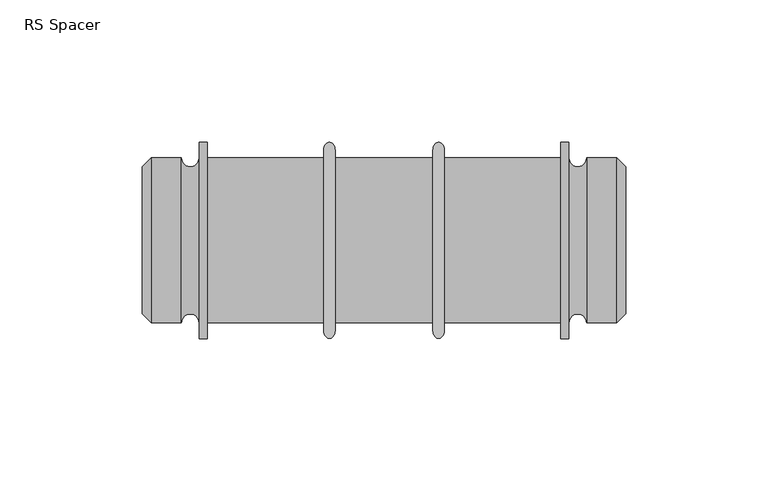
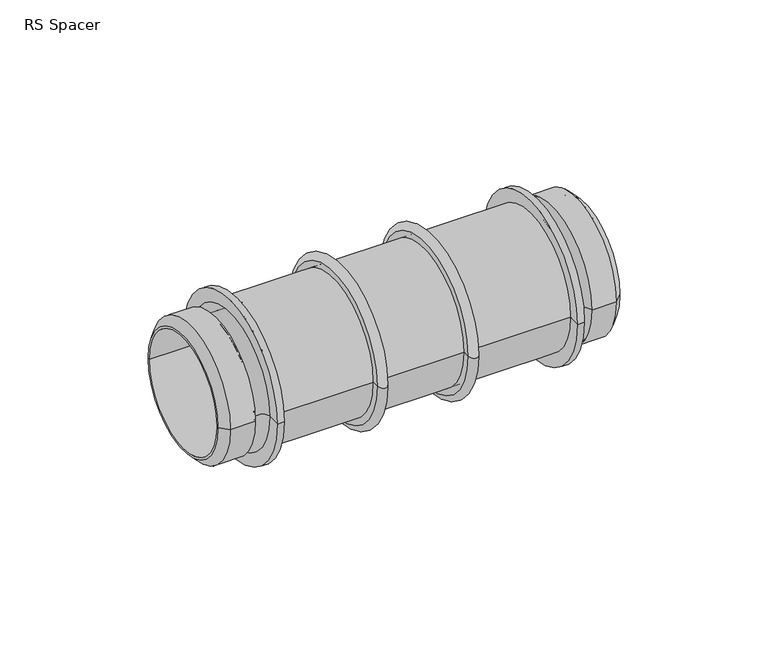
"""IFC4 building model written with IfcOpenShell, lengths in millimetres: pipe fitting geometry, RS Spacer : Superpipe RS Spacer - RS2 130mm."""

from ifc_helpers import new_model, si_unit, point, frame, origin, place, context, project, spatial, polyline, circle_curve, ellipse_curve, trimmed, source, transform, mapped, element, save
from ifc_brep_helpers import plane_surface, cylinder_surface, revolved_surface, advanced_brep


def rs_spacer_67fe0fff(model_context):
    return source(origin(), model_context, "Body", "AdvancedBrep", [
        advanced_brep(
        [(106.2, -29.0, 0.0), (106.2, 29.0, 0.0), (102.2, 29.0, 0.0), (102.2, -29.0, 0.0), (106.2, -31.75, 0.0), (106.2, 31.75, 0.0), (102.2, 31.75, 0.0), (102.2, -31.75, 0.0)],
        [
            (0, 1, circle_curve(frame((106.2, 0.0, 0.0), z_axis=(1.0, 0.0, 0.0), x_axis=(0.0, 1.0, 0.0)), 29.0)),
            (1, 2),
            (2, 3, circle_curve(frame((102.2, 0.0, 0.0), z_axis=(-1.0, 0.0, 0.0), x_axis=(0.0, 1.0, 0.0)), 29.0)),
            (3, 0),
            (1, 0, circle_curve(frame((106.2, 0.0, 0.0), z_axis=(1.0, 0.0, 0.0), x_axis=(0.0, 1.0, 0.0)), 29.0)),
            (3, 2, circle_curve(frame((102.2, 0.0, 0.0), z_axis=(-1.0, 0.0, 0.0), x_axis=(0.0, 1.0, 0.0)), 29.0)),
            (4, 5, circle_curve(frame((106.2, 0.0, 0.0), z_axis=(1.0, 0.0, 0.0), x_axis=(0.0, 1.0, 0.0)), 31.75)),
            (5, 1),
            (0, 4),
            (5, 4, circle_curve(frame((106.2, 0.0, 0.0), z_axis=(1.0, 0.0, 0.0), x_axis=(0.0, 1.0, 0.0)), 31.75)),
            (2, 6),
            (6, 7, circle_curve(frame((102.2, 0.0, 0.0), z_axis=(-1.0, 0.0, 0.0), x_axis=(0.0, 1.0, 0.0)), 31.75)),
            (7, 3),
            (7, 6, circle_curve(frame((102.2, 0.0, 0.0), z_axis=(-1.0, 0.0, 0.0), x_axis=(0.0, 1.0, 0.0)), 31.75)),
            (6, 5, ellipse_curve(frame((104.2, 31.75, 0.0), z_axis=(0.0, 0.0, -1.0), x_axis=(0.0, -1.0, 0.0)), 2.75, 2.0)),
            (4, 7, ellipse_curve(frame((104.2, -31.75, 0.0), z_axis=(0.0, 0.0, -1.0), x_axis=(0.0, 1.0, 0.0)), 2.75, 2.0)),
        ],
        [
            revolved_surface(polyline([(102.20000000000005, 29.0, 0.0), (106.20000000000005, 29.0, 0.0)]), (2000.0, 0.0, 0.0), (-1.0, 0.0, 0.0)),
            plane_surface(frame((106.2, 0.0, 0.0), z_axis=(1.0, 0.0, 0.0), x_axis=(0.0, 1.0, 0.0))),
            plane_surface(frame((102.2, 0.0, 0.0), z_axis=(-1.0, 0.0, 0.0), x_axis=(0.0, 1.0, 0.0))),
            revolved_surface(trimmed(ellipse_curve(frame((104.2, 31.75, 0.0), z_axis=(0.0, 0.0, 1.0), x_axis=(-1.0, 0.0, 0.0)), 2.0, 2.75), [point((106.2, 31.75, 0.0))], [point((102.2, 31.75, 0.0))], True, "CARTESIAN"), (2000.0, 0.0, 0.0), (-1.0, 0.0, 0.0)),
        ],
        [
            (0, [[1, 2, 3, 4]]),
            (0, [[5, -4, 6, -2]]),
            (1, [[7, 8, -1, 9]]),
            (1, [[10, -9, -5, -8]]),
            (2, [[-3, 11, 12, 13]]),
            (2, [[-6, -13, 14, -11]]),
            (3, [[-12, 15, -7, 16]]),
            (3, [[-14, -16, -10, -15]]),
        ],
    ),
        advanced_brep(
        [(67.8, -29.0, 0.0), (67.8, 29.0, 0.0), (63.8, 29.0, 0.0), (63.8, -29.0, 0.0), (67.8, -31.75, 0.0), (67.8, 31.75, 0.0), (63.8, 31.75, 0.0), (63.8, -31.75, 0.0)],
        [
            (0, 1, circle_curve(frame((67.8, 0.0, 0.0), z_axis=(1.0, 0.0, 0.0), x_axis=(0.0, 1.0, 0.0)), 29.0)),
            (1, 2),
            (2, 3, circle_curve(frame((63.8, 0.0, 0.0), z_axis=(-1.0, 0.0, 0.0), x_axis=(0.0, 1.0, 0.0)), 29.0)),
            (3, 0),
            (1, 0, circle_curve(frame((67.8, 0.0, 0.0), z_axis=(1.0, 0.0, 0.0), x_axis=(0.0, 1.0, 0.0)), 29.0)),
            (3, 2, circle_curve(frame((63.8, 0.0, 0.0), z_axis=(-1.0, 0.0, 0.0), x_axis=(0.0, 1.0, 0.0)), 29.0)),
            (4, 5, circle_curve(frame((67.8, 0.0, 0.0), z_axis=(1.0, 0.0, 0.0), x_axis=(0.0, 1.0, 0.0)), 31.75)),
            (5, 1),
            (0, 4),
            (5, 4, circle_curve(frame((67.8, 0.0, 0.0), z_axis=(1.0, 0.0, 0.0), x_axis=(0.0, 1.0, 0.0)), 31.75)),
            (2, 6),
            (6, 7, circle_curve(frame((63.8, 0.0, 0.0), z_axis=(-1.0, 0.0, 0.0), x_axis=(0.0, 1.0, 0.0)), 31.75)),
            (7, 3),
            (7, 6, circle_curve(frame((63.8, 0.0, 0.0), z_axis=(-1.0, 0.0, 0.0), x_axis=(0.0, 1.0, 0.0)), 31.75)),
            (6, 5, ellipse_curve(frame((65.8, 31.75, 0.0), z_axis=(0.0, 0.0, -1.0), x_axis=(0.0, -1.0, 0.0)), 2.75, 2.0)),
            (4, 7, ellipse_curve(frame((65.8, -31.75, 0.0), z_axis=(0.0, 0.0, -1.0), x_axis=(0.0, 1.0, 0.0)), 2.75, 2.0)),
        ],
        [
            revolved_surface(polyline([(63.799999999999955, 29.0, 0.0), (67.79999999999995, 29.0, 0.0)]), (2000.0, 0.0, 0.0), (-1.0, 0.0, 0.0)),
            plane_surface(frame((67.8, 0.0, 0.0), z_axis=(1.0, 0.0, 0.0), x_axis=(0.0, 1.0, 0.0))),
            plane_surface(frame((63.8, 0.0, 0.0), z_axis=(-1.0, 0.0, 0.0), x_axis=(0.0, 1.0, 0.0))),
            revolved_surface(trimmed(ellipse_curve(frame((65.8, 31.75, 0.0), z_axis=(0.0, 0.0, 1.0), x_axis=(-1.0, 0.0, 0.0)), 2.0, 2.75), [point((67.8, 31.75, 0.0))], [point((63.8, 31.75, 0.0))], True, "CARTESIAN"), (2000.0, 0.0, 0.0), (-1.0, 0.0, 0.0)),
        ],
        [
            (0, [[1, 2, 3, 4]]),
            (0, [[5, -4, 6, -2]]),
            (1, [[7, 8, -1, 9]]),
            (1, [[10, -9, -5, -8]]),
            (2, [[-3, 11, 12, 13]]),
            (2, [[-6, -13, 14, -11]]),
            (3, [[-12, 15, -7, 16]]),
            (3, [[-14, -16, -10, -15]]),
        ],
    ),
        advanced_brep(
        [(147.2, -29.0, 0.0), (147.2, 29.0, 0.0), (147.2, 24.8, 0.0), (147.2, -24.8, 0.0), (22.8, 24.8, 0.0), (22.8, -24.8, 0.0), (22.8, 29.0, 0.0), (22.8, -29.0, 0.0)],
        [
            (0, 1, circle_curve(frame((147.2, 0.0, 0.0), z_axis=(1.0, 0.0, 0.0), x_axis=(0.0, 1.0, 0.0)), 29.0)),
            (1, 2),
            (2, 3, circle_curve(frame((147.2, 0.0, 0.0), z_axis=(-1.0, 0.0, 0.0), x_axis=(0.0, 1.0, 0.0)), 24.8)),
            (3, 0),
            (2, 4),
            (4, 5, circle_curve(frame((22.8, 0.0, 0.0), z_axis=(-1.0, 0.0, 0.0), x_axis=(0.0, 1.0, 0.0)), 24.8)),
            (5, 3),
            (4, 6),
            (6, 7, circle_curve(frame((22.8, 0.0, 0.0), z_axis=(-1.0, 0.0, 0.0), x_axis=(0.0, 1.0, 0.0)), 29.0)),
            (7, 5),
            (6, 1),
            (0, 7),
            (6, 7, circle_curve(frame((22.8, 0.0, 0.0), z_axis=(1.0, 0.0, 0.0), x_axis=(0.0, 1.0, 0.0)), 29.0)),
            (0, 1, circle_curve(frame((147.2, 0.0, 0.0), z_axis=(-1.0, 0.0, 0.0), x_axis=(0.0, 1.0, 0.0)), 29.0)),
            (4, 5, circle_curve(frame((22.8, 0.0, 0.0), z_axis=(1.0, 0.0, 0.0), x_axis=(0.0, 1.0, 0.0)), 24.8)),
            (2, 3, circle_curve(frame((147.2, 0.0, 0.0), z_axis=(1.0, 0.0, 0.0), x_axis=(0.0, 1.0, 0.0)), 24.8)),
        ],
        [
            plane_surface(frame((147.2, 0.0, 0.0), z_axis=(1.0, 0.0, 0.0), x_axis=(0.0, 1.0, 0.0))),
            revolved_surface(polyline([(22.799999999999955, 24.8, 0.0), (147.20000000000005, 24.8, 0.0)]), (2000.0, 0.0, 0.0), (-1.0, 0.0, 0.0)),
            plane_surface(frame((22.8, 0.0, 0.0), z_axis=(-1.0, 0.0, 0.0), x_axis=(0.0, 1.0, 0.0))),
            cylinder_surface(frame((2000.0, 0.0, 0.0), z_axis=(-1.0, 0.0, 0.0), x_axis=(0.0, 1.0, 0.0)), 29.0),
        ],
        [
            (0, [[1, 2, 3, 4]]),
            (1, [[-3, 5, 6, 7]]),
            (2, [[-6, 8, 9, 10]]),
            (3, [[-9, 11, -1, 12]]),
            (3, [[13, -12, 14, -11]]),
            (2, [[15, -10, -13, -8]]),
            (1, [[16, -7, -15, -5]]),
            (0, [[-14, -4, -16, -2]]),
        ],
    ),
        advanced_brep(
        [(147.2, -34.5, 0.0), (147.2, 34.5, 0.0), (150.0, 34.5, 0.0), (150.0, -34.5, 0.0), (150.0, 29.0, 0.0), (150.0, -29.0, 0.0), (170.0, -24.8, 0.0), (170.0, 24.8, 0.0), (147.2, 24.8, 0.0), (147.2, -24.8, 0.0), (166.8, -29.0, 0.0), (166.8, 29.0, 0.0), (170.0, 25.8, 0.0), (170.0, -25.8, 0.0), (156.2, 29.0, 0.0), (156.2, -29.0, 0.0)],
        [
            (0, 1, circle_curve(frame((147.2, 0.0, 0.0), z_axis=(1.0, 0.0, 0.0), x_axis=(0.0, 1.0, 0.0)), 34.5)),
            (1, 2),
            (2, 3, circle_curve(frame((150.0, 0.0, 0.0), z_axis=(-1.0, 0.0, 0.0), x_axis=(0.0, 1.0, 0.0)), 34.5)),
            (3, 0),
            (1, 0, circle_curve(frame((147.2, 0.0, 0.0), z_axis=(1.0, 0.0, 0.0), x_axis=(0.0, 1.0, 0.0)), 34.5)),
            (3, 2, circle_curve(frame((150.0, 0.0, 0.0), z_axis=(-1.0, 0.0, 0.0), x_axis=(0.0, 1.0, 0.0)), 34.5)),
            (2, 4),
            (4, 5, circle_curve(frame((150.0, 0.0, 0.0), z_axis=(-1.0, 0.0, 0.0), x_axis=(0.0, 1.0, 0.0)), 29.0)),
            (5, 3),
            (5, 4, circle_curve(frame((150.0, 0.0, 0.0), z_axis=(-1.0, 0.0, 0.0), x_axis=(0.0, 1.0, 0.0)), 29.0)),
            (6, 7, circle_curve(frame((170.0, 0.0, 0.0), z_axis=(1.0, 0.0, 0.0), x_axis=(0.0, 1.0, 0.0)), 24.8)),
            (7, 8),
            (8, 9, circle_curve(frame((147.2, 0.0, 0.0), z_axis=(-1.0, 0.0, 0.0), x_axis=(0.0, 1.0, 0.0)), 24.8)),
            (9, 6),
            (7, 6, circle_curve(frame((170.0, 0.0, 0.0), z_axis=(1.0, 0.0, 0.0), x_axis=(0.0, 1.0, 0.0)), 24.8)),
            (9, 8, circle_curve(frame((147.2, 0.0, 0.0), z_axis=(-1.0, 0.0, 0.0), x_axis=(0.0, 1.0, 0.0)), 24.8)),
            (8, 1),
            (0, 9),
            (10, 11, circle_curve(frame((166.8, 0.0, 0.0), z_axis=(1.0, 0.0, 0.0), x_axis=(0.0, 1.0, 0.0)), 29.0)),
            (11, 12),
            (12, 13, circle_curve(frame((170.0, 0.0, 0.0), z_axis=(-1.0, 0.0, 0.0), x_axis=(0.0, 1.0, 0.0)), 25.8)),
            (13, 10),
            (11, 10, circle_curve(frame((166.8, 0.0, 0.0), z_axis=(1.0, 0.0, 0.0), x_axis=(0.0, 1.0, 0.0)), 29.0)),
            (13, 12, circle_curve(frame((170.0, 0.0, 0.0), z_axis=(-1.0, 0.0, 0.0), x_axis=(0.0, 1.0, 0.0)), 25.8)),
            (12, 7),
            (6, 13),
            (4, 14, circle_curve(frame((153.1, 29.0, 0.0), z_axis=(0.0, 0.0, 1.0), x_axis=(-1.0, 0.0, 0.0)), 3.1)),
            (14, 15, circle_curve(frame((156.2, 0.0, 0.0), z_axis=(-1.0, 0.0, 0.0), x_axis=(0.0, 1.0, 0.0)), 29.0)),
            (15, 5, circle_curve(frame((153.1, -29.0, 0.0), z_axis=(0.0, 0.0, 1.0), x_axis=(-1.0, 0.0, 0.0)), 3.1)),
            (15, 14, circle_curve(frame((156.2, 0.0, 0.0), z_axis=(-1.0, 0.0, 0.0), x_axis=(0.0, 1.0, 0.0)), 29.0)),
            (14, 11),
            (10, 15),
        ],
        [
            cylinder_surface(frame((-1994.4, 0.0, 0.0), z_axis=(-1.0, 0.0, 0.0), x_axis=(0.0, 1.0, 0.0)), 34.5),
            plane_surface(frame((150.0, 0.0, 0.0), z_axis=(1.0, 0.0, 0.0), x_axis=(0.0, 1.0, 0.0))),
            revolved_surface(polyline([(147.19999999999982, 24.8, 0.0), (170.0, 24.8, 0.0)]), (-1994.4, 0.0, 0.0), (-1.0, 0.0, 0.0)),
            plane_surface(frame((147.2, 0.0, 0.0), z_axis=(-1.0, 0.0, 0.0), x_axis=(0.0, 1.0, 0.0))),
            revolved_surface(polyline([(170.0, 25.8, 0.0), (166.8, 29.0, 0.0)]), (-1994.4, 0.0, 0.0), (-1.0, 0.0, 0.0)),
            plane_surface(frame((170.0, 0.0, 0.0), z_axis=(1.0, 0.0, 0.0), x_axis=(0.0, 1.0, 0.0))),
            revolved_surface(trimmed(ellipse_curve(frame((153.1, 29.0, 0.0), z_axis=(0.0, 0.0, -1.0), x_axis=(-1.0, 0.0, 0.0)), 3.1, 3.1), [point((156.2, 29.0, 0.0))], [point((150.0, 29.0, 0.0))], True, "CARTESIAN"), (-1994.4, 0.0, 0.0), (-1.0, 0.0, 0.0)),
            cylinder_surface(frame((-1994.4, 0.0, 0.0), z_axis=(-1.0, 0.0, 0.0), x_axis=(0.0, 1.0, 0.0)), 29.0),
        ],
        [
            (0, [[1, 2, 3, 4]]),
            (0, [[5, -4, 6, -2]]),
            (1, [[-3, 7, 8, 9]]),
            (1, [[-6, -9, 10, -7]]),
            (2, [[11, 12, 13, 14]]),
            (2, [[15, -14, 16, -12]]),
            (3, [[-13, 17, -1, 18]]),
            (3, [[-16, -18, -5, -17]]),
            (4, [[19, 20, 21, 22]]),
            (4, [[23, -22, 24, -20]]),
            (5, [[-21, 25, -11, 26]]),
            (5, [[-24, -26, -15, -25]]),
            (6, [[-8, 27, 28, 29]]),
            (6, [[-10, -29, 30, -27]]),
            (7, [[-28, 31, -19, 32]]),
            (7, [[-30, -32, -23, -31]]),
        ],
    ),
        advanced_brep(
        [(20.0, -34.5, 0.0), (20.0, 34.5, 0.0), (22.8, 34.5, 0.0), (22.8, -34.5, 0.0), (20.0, -29.0, 0.0), (20.0, 29.0, 0.0), (22.8, -24.8, 0.0), (22.8, 24.8, 0.0), (0.0, 24.8, 0.0), (0.0, -24.8, 0.0), (0.0, -25.8, 0.0), (0.0, 25.8, 0.0), (3.2, 29.0, 0.0), (3.2, -29.0, 0.0), (13.8, -29.0, 0.0), (13.8, 29.0, 0.0)],
        [
            (0, 1, circle_curve(frame((20.0, 0.0, 0.0), z_axis=(1.0, 0.0, 0.0), x_axis=(0.0, 1.0, 0.0)), 34.5)),
            (1, 2),
            (2, 3, circle_curve(frame((22.8, 0.0, 0.0), z_axis=(-1.0, 0.0, 0.0), x_axis=(0.0, 1.0, 0.0)), 34.5)),
            (3, 0),
            (1, 0, circle_curve(frame((20.0, 0.0, 0.0), z_axis=(1.0, 0.0, 0.0), x_axis=(0.0, 1.0, 0.0)), 34.5)),
            (3, 2, circle_curve(frame((22.8, 0.0, 0.0), z_axis=(-1.0, 0.0, 0.0), x_axis=(0.0, 1.0, 0.0)), 34.5)),
            (4, 5, circle_curve(frame((20.0, 0.0, 0.0), z_axis=(1.0, 0.0, 0.0), x_axis=(0.0, 1.0, 0.0)), 29.0)),
            (5, 1),
            (0, 4),
            (5, 4, circle_curve(frame((20.0, 0.0, 0.0), z_axis=(1.0, 0.0, 0.0), x_axis=(0.0, 1.0, 0.0)), 29.0)),
            (6, 7, circle_curve(frame((22.8, 0.0, 0.0), z_axis=(1.0, 0.0, 0.0), x_axis=(0.0, 1.0, 0.0)), 24.8)),
            (7, 8),
            (8, 9, circle_curve(frame((0.0, 0.0, 0.0), z_axis=(-1.0, 0.0, 0.0), x_axis=(0.0, 1.0, 0.0)), 24.8)),
            (9, 6),
            (7, 6, circle_curve(frame((22.8, 0.0, 0.0), z_axis=(1.0, 0.0, 0.0), x_axis=(0.0, 1.0, 0.0)), 24.8)),
            (9, 8, circle_curve(frame((0.0, 0.0, 0.0), z_axis=(-1.0, 0.0, 0.0), x_axis=(0.0, 1.0, 0.0)), 24.8)),
            (2, 7),
            (6, 3),
            (10, 11, circle_curve(frame((0.0, 0.0, 0.0), z_axis=(1.0, 0.0, 0.0), x_axis=(0.0, 1.0, 0.0)), 25.8)),
            (11, 12),
            (12, 13, circle_curve(frame((3.2, 0.0, 0.0), z_axis=(-1.0, 0.0, 0.0), x_axis=(0.0, 1.0, 0.0)), 29.0)),
            (13, 10),
            (11, 10, circle_curve(frame((0.0, 0.0, 0.0), z_axis=(1.0, 0.0, 0.0), x_axis=(0.0, 1.0, 0.0)), 25.8)),
            (13, 12, circle_curve(frame((3.2, 0.0, 0.0), z_axis=(-1.0, 0.0, 0.0), x_axis=(0.0, 1.0, 0.0)), 29.0)),
            (8, 11),
            (10, 9),
            (14, 15, circle_curve(frame((13.8, 0.0, 0.0), z_axis=(1.0, 0.0, 0.0), x_axis=(0.0, 1.0, 0.0)), 29.0)),
            (15, 5, circle_curve(frame((16.9, 29.0, 0.0), z_axis=(0.0, 0.0, 1.0), x_axis=(1.0, 0.0, 0.0)), 3.1)),
            (4, 14, circle_curve(frame((16.9, -29.0, 0.0), z_axis=(0.0, 0.0, 1.0), x_axis=(1.0, 0.0, 0.0)), 3.1)),
            (15, 14, circle_curve(frame((13.8, 0.0, 0.0), z_axis=(1.0, 0.0, 0.0), x_axis=(0.0, 1.0, 0.0)), 29.0)),
            (12, 15),
            (14, 13),
        ],
        [
            cylinder_surface(frame((2090.0, 0.0, 0.0), z_axis=(-1.0, 0.0, 0.0), x_axis=(0.0, 1.0, 0.0)), 34.5),
            plane_surface(frame((20.0, 0.0, 0.0), z_axis=(-1.0, 0.0, 0.0), x_axis=(0.0, 1.0, 0.0))),
            revolved_surface(polyline([(0.0, 24.8, 0.0), (22.800000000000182, 24.8, 0.0)]), (2090.0, 0.0, 0.0), (-1.0, 0.0, 0.0)),
            plane_surface(frame((22.8, 0.0, 0.0), z_axis=(1.0, 0.0, 0.0), x_axis=(0.0, 1.0, 0.0))),
            revolved_surface(polyline([(3.2, 29.0, 0.0), (0.0, 25.8, 0.0)]), (2090.0, 0.0, 0.0), (-1.0, 0.0, 0.0)),
            plane_surface(frame((0.0, 0.0, 0.0), z_axis=(-1.0, 0.0, 0.0), x_axis=(0.0, 1.0, 0.0))),
            revolved_surface(trimmed(ellipse_curve(frame((16.9, 29.0, 0.0), z_axis=(0.0, 0.0, -1.0), x_axis=(1.0, 0.0, 0.0)), 3.1, 3.1), [point((20.0, 29.0, 0.0))], [point((13.8, 29.0, 0.0))], True, "CARTESIAN"), (2090.0, 0.0, 0.0), (-1.0, 0.0, 0.0)),
            cylinder_surface(frame((2090.0, 0.0, 0.0), z_axis=(-1.0, 0.0, 0.0), x_axis=(0.0, 1.0, 0.0)), 29.0),
        ],
        [
            (0, [[1, 2, 3, 4]]),
            (0, [[5, -4, 6, -2]]),
            (1, [[7, 8, -1, 9]]),
            (1, [[10, -9, -5, -8]]),
            (2, [[11, 12, 13, 14]]),
            (2, [[15, -14, 16, -12]]),
            (3, [[-3, 17, -11, 18]]),
            (3, [[-6, -18, -15, -17]]),
            (4, [[19, 20, 21, 22]]),
            (4, [[23, -22, 24, -20]]),
            (5, [[-13, 25, -19, 26]]),
            (5, [[-16, -26, -23, -25]]),
            (6, [[27, 28, -7, 29]]),
            (6, [[30, -29, -10, -28]]),
            (7, [[-21, 31, -27, 32]]),
            (7, [[-24, -32, -30, -31]]),
        ],
    ),
    ])


if __name__ == "__main__":
    model = new_model("IFC4")
    model_context = context("Model", 3, world=origin())
    ifc_project = project(units=[si_unit("LENGTHUNIT", "METRE", prefix="MILLI")], contexts=[model_context])
    site = spatial("IfcSite", under=ifc_project)
    building = spatial("IfcBuilding", under=site)
    placement = place(None, origin())
    rs_spacer_shape = rs_spacer_67fe0fff(model_context)
    element("IfcPipeFitting", 1, ObjectType="RS Spacer : Superpipe RS Spacer - RS2 130mm", at=placement, inside=building, context=model_context, shape_type="MappedRepresentation", body=[
        mapped(rs_spacer_shape, transform((0.0, 0.0, 0.0), x_axis=(1.0, 0.0, 0.0), y_axis=(0.0, 1.0, 0.0), z_axis=(0.0, 0.0, 1.0))),
    ])
    save(model, "model.ifc")
